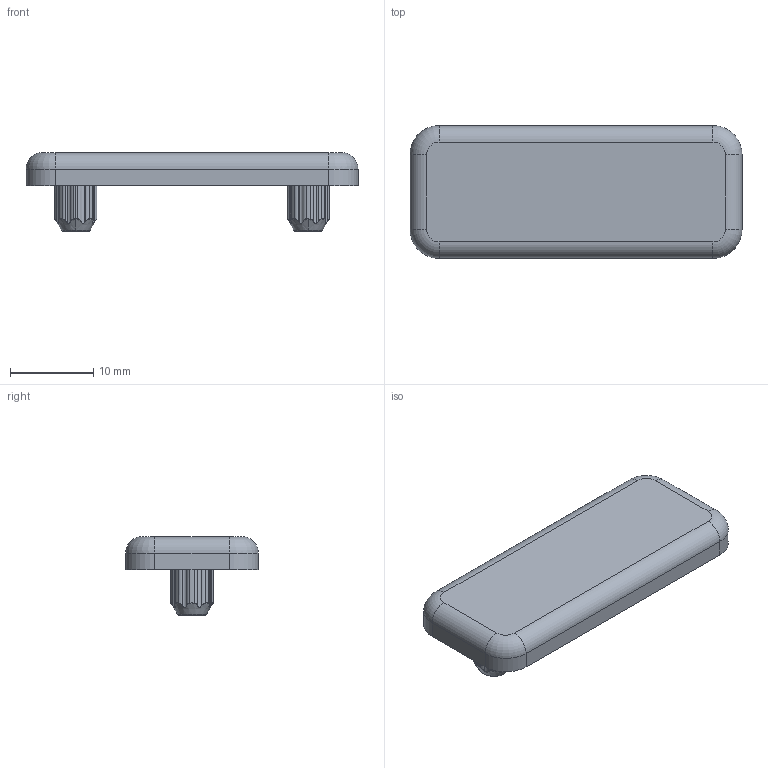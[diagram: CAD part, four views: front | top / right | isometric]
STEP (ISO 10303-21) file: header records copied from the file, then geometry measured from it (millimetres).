
FILE_DESCRIPTION (( 'STEP AP203' ), '1' );
FILE_NAME ('0108AK4016.STEP', '2024-03-07T13:11:29', ( 'Windows-Benutzer' ), ( '' ), 'SwSTEP 2.0', 'SolidWorks 2023', '' );
FILE_SCHEMA (( 'CONFIG_CONTROL_DESIGN' ));
Length unit declared in the file: millimetre
Products named in the file (1): 0108AK4016
Bounding box: 40 x 16 x 9.5 mm (x, y, z)
Volume: 1780.2 mm3; surface area: 2098 mm2
Topology: 1 solids, 1 shells, 155 faces, 424 edges, 276 vertices
Faces by surface type: cylinder 86, plane 31, bspline 22, cone 8, torus 8
Entity records: 6043 total; most frequent: CARTESIAN_POINT 2186, ORIENTED_EDGE 848, DIRECTION 750, EDGE_CURVE 424, AXIS2_PLACEMENT_3D 300, VERTEX_POINT 276, CIRCLE 166, EDGE_LOOP 160
